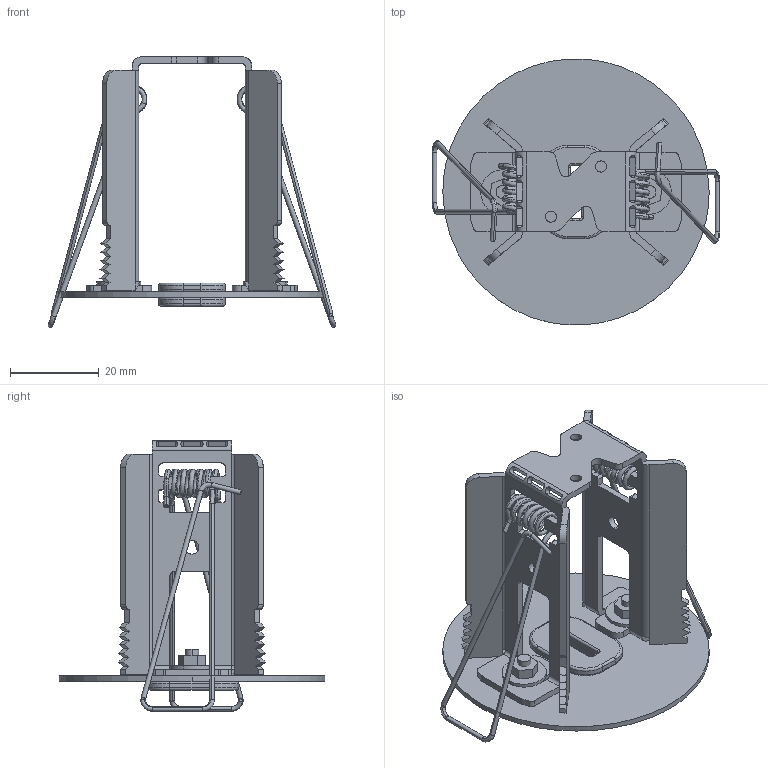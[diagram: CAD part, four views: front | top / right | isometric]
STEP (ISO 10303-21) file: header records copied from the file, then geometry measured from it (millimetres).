
FILE_DESCRIPTION(/* description */ (''),/* implementation_level */ '2;1');
FILE_NAME(/* name */ 'Funivia - Remote wiring recessed grommet',/* time_stamp */ '2022-08-29T17:35:35+02:00',/* author */ (''),/* organization */ (''),/* preprocessor_version */ 'ST-DEVELOPER v16.5',/* originating_system */ 'Rhino 7.17',/* authorisation */ '');
FILE_SCHEMA (('AUTOMOTIVE_DESIGN'));
Length unit declared in the file: millimetre
Products named in the file (1): Document
Bounding box: 64.86 x 59.89 x 60.95 mm (x, y, z)
Volume: 10497.1 mm3; surface area: 17762 mm2
Topology: 15 solids, 15 shells, 554 faces, 1466 edges, 942 vertices
Faces by surface type: plane 270, cylinder 204, bspline 80
Entity records: 21049 total; most frequent: CARTESIAN_POINT 11397, ORIENTED_EDGE 2920, EDGE_CURVE 1460, B_SPLINE_CURVE_WITH_KNOTS 946, VERTEX_POINT 942, EDGE_LOOP 604, ADVANCED_FACE 554, FACE_OUTER_BOUND 554
